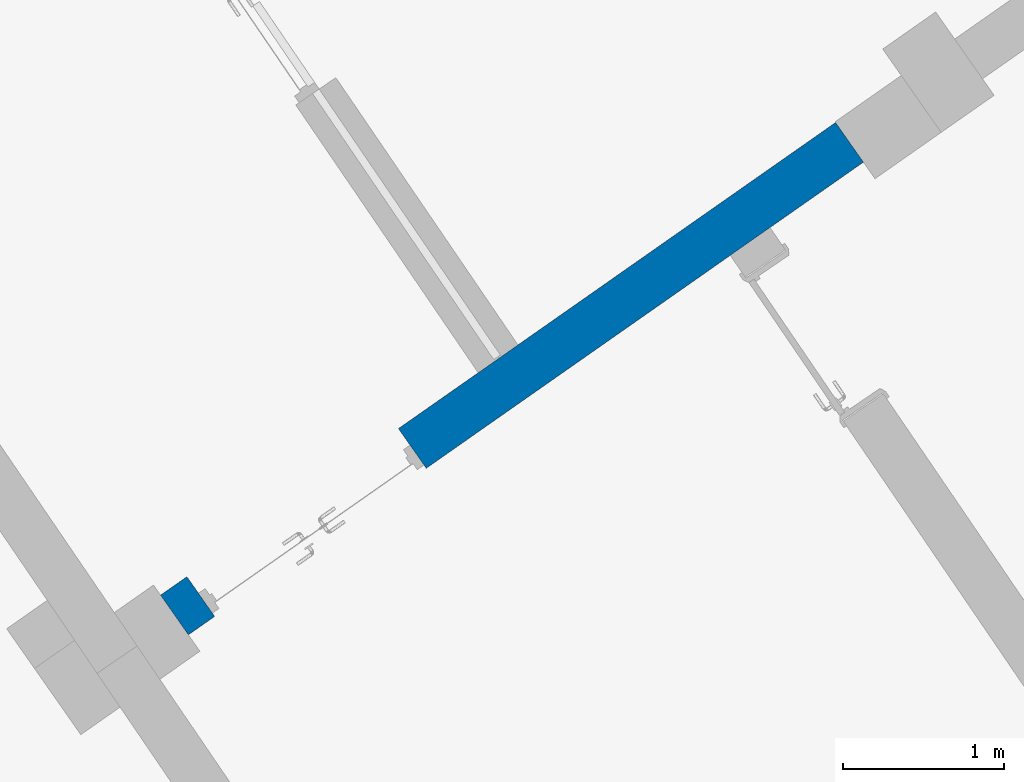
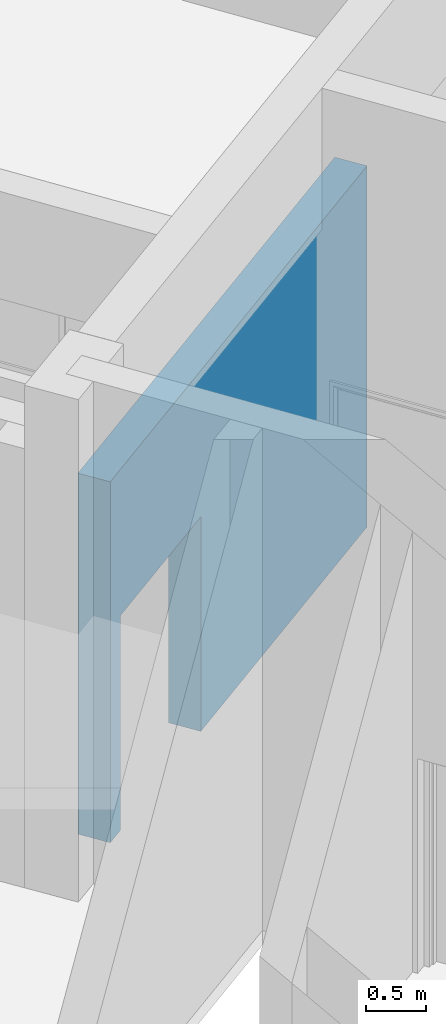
# One storey, part 65 of 157: 1 wall, 1 opening.
"""IFC2X3 building model written with IfcOpenShell, lengths in millimetres."""

from ifc_helpers import new_model, entity, si_unit, converted_unit, derived_unit, direction, frame, frame_2d, origin, place, context, subcontext, project, spatial, rectangle, extrude, material, layer, layer_set, layer_usage, type_object, element, save


model = new_model("IFC2X3")

# Units and contexts
model_context = context("Model", 3, precision=0.01, world=origin(), true_north=direction((6.123031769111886e-17, 1.0)))
body_context = subcontext(model_context, "Body", "Model", "MODEL_VIEW")
ifc_project = project(units=[si_unit("LENGTHUNIT", "METRE", prefix="MILLI"), si_unit("AREAUNIT", "SQUARE_METRE"), si_unit("VOLUMEUNIT", "CUBIC_METRE"), converted_unit("PLANEANGLEUNIT", "DEGREE", entity("IfcRatioMeasure", 0.017453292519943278), si_unit("PLANEANGLEUNIT", "RADIAN"), dimensions=[0, 0, 0, 0, 0, 0, 0]), si_unit("MASSUNIT", "GRAM", prefix="KILO"), derived_unit("MASSDENSITYUNIT", [(si_unit("MASSUNIT", "GRAM", prefix="KILO"), 1), (si_unit("LENGTHUNIT", "METRE"), -3)]), derived_unit("MOMENTOFINERTIAUNIT", [(si_unit("LENGTHUNIT", "METRE"), 4)]), si_unit("TIMEUNIT", "SECOND"), si_unit("FREQUENCYUNIT", "HERTZ"), si_unit("THERMODYNAMICTEMPERATUREUNIT", "DEGREE_CELSIUS"), derived_unit("THERMALTRANSMITTANCEUNIT", [(si_unit("MASSUNIT", "GRAM", prefix="KILO"), 1), (si_unit("THERMODYNAMICTEMPERATUREUNIT", "KELVIN"), -1), (si_unit("TIMEUNIT", "SECOND"), -3)]), derived_unit("THERMALCONDUCTANCEUNIT", [(si_unit("MASSUNIT", "GRAM", prefix="KILO"), 1), (si_unit("LENGTHUNIT", "METRE"), 1), (si_unit("THERMODYNAMICTEMPERATUREUNIT", "KELVIN"), -1), (si_unit("TIMEUNIT", "SECOND"), -3)]), derived_unit("VOLUMETRICFLOWRATEUNIT", [(si_unit("LENGTHUNIT", "METRE"), 3), (si_unit("TIMEUNIT", "SECOND"), -1)]), derived_unit("MASSFLOWRATEUNIT", [(si_unit("MASSUNIT", "GRAM", prefix="KILO"), 1), (si_unit("TIMEUNIT", "SECOND"), -1)]), derived_unit("ROTATIONALFREQUENCYUNIT", [(si_unit("TIMEUNIT", "SECOND"), -1)]), si_unit("ELECTRICCURRENTUNIT", "AMPERE"), si_unit("ELECTRICVOLTAGEUNIT", "VOLT"), si_unit("POWERUNIT", "WATT"), converted_unit("FORCEUNIT", "KIP", entity("IfcRatioMeasure", 2.088543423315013e-05), si_unit("FORCEUNIT", "NEWTON"), dimensions=[1, 1, -2, 0, 0, 0, 0]), si_unit("ILLUMINANCEUNIT", "LUX"), si_unit("LUMINOUSFLUXUNIT", "LUMEN"), si_unit("LUMINOUSINTENSITYUNIT", "CANDELA"), derived_unit("USERDEFINED", [(si_unit("MASSUNIT", "GRAM", prefix="KILO"), -1), (si_unit("LENGTHUNIT", "METRE"), -2), (si_unit("TIMEUNIT", "SECOND"), 3), (si_unit("LUMINOUSFLUXUNIT", "LUMEN"), 1)]), derived_unit("USERDEFINED", [(si_unit("MASSUNIT", "GRAM", prefix="KILO"), 1), (si_unit("LENGTHUNIT", "METRE"), 3), (si_unit("TIMEUNIT", "SECOND"), -3), (si_unit("ELECTRICCURRENTUNIT", "AMPERE"), -2)]), derived_unit("USERDEFINED", [(si_unit("LENGTHUNIT", "METRE"), 2), (si_unit("TIMEUNIT", "SECOND"), -2)]), derived_unit("SOUNDPOWERUNIT", [(si_unit("MASSUNIT", "GRAM", prefix="KILO"), 1), (si_unit("LENGTHUNIT", "METRE"), 2), (si_unit("TIMEUNIT", "SECOND"), -3)]), derived_unit("SOUNDPRESSUREUNIT", [(si_unit("MASSUNIT", "GRAM", prefix="KILO"), 1), (si_unit("LENGTHUNIT", "METRE"), -1), (si_unit("TIMEUNIT", "SECOND"), -2)]), derived_unit("LINEARVELOCITYUNIT", [(si_unit("LENGTHUNIT", "METRE"), 1), (si_unit("TIMEUNIT", "SECOND"), -1)]), si_unit("PRESSUREUNIT", "PASCAL"), derived_unit("USERDEFINED", [(si_unit("LENGTHUNIT", "METRE"), -2), (si_unit("MASSUNIT", "GRAM", prefix="KILO"), 1), (si_unit("TIMEUNIT", "SECOND"), -2)]), derived_unit("LINEARFORCEUNIT", [(si_unit("MASSUNIT", "GRAM", prefix="KILO"), 1), (si_unit("LENGTHUNIT", "METRE"), 1), (si_unit("TIMEUNIT", "SECOND"), -2), (si_unit("LENGTHUNIT", "METRE"), -1)]), derived_unit("PLANARFORCEUNIT", [(si_unit("MASSUNIT", "GRAM", prefix="KILO"), 1), (si_unit("LENGTHUNIT", "METRE"), 1), (si_unit("TIMEUNIT", "SECOND"), -2), (si_unit("LENGTHUNIT", "METRE"), -2)]), derived_unit("SPECIFICHEATCAPACITYUNIT", [(si_unit("LENGTHUNIT", "METRE"), 2), (si_unit("TIMEUNIT", "SECOND"), -2), (si_unit("THERMODYNAMICTEMPERATUREUNIT", "KELVIN"), -1)]), derived_unit("VAPORPERMEABILITYUNIT", [(si_unit("TIMEUNIT", "SECOND"), 1), (si_unit("LENGTHUNIT", "METRE"), -1)]), derived_unit("DYNAMICVISCOSITYUNIT", [(si_unit("MASSUNIT", "GRAM", prefix="KILO"), 1), (si_unit("LENGTHUNIT", "METRE"), -1), (si_unit("TIMEUNIT", "SECOND"), -1)]), derived_unit("THERMALEXPANSIONCOEFFICIENTUNIT", [(si_unit("THERMODYNAMICTEMPERATUREUNIT", "KELVIN"), -1)])], contexts=[model_context])

# Site, building, storey
site_placement = place(None, frame((0.0, 0.0, 0.0), z_axis=(0.0, 0.0, 1.0), x_axis=(0.8191520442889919, 0.5735764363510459, 0.0)))
site = spatial("IfcSite", under=ifc_project, at=site_placement, Name="Default", CompositionType="ELEMENT")
building_placement = place(site_placement, origin())
building = spatial("IfcBuilding", under=site, at=building_placement, CompositionType="ELEMENT")
storey_placement = place(building_placement, origin())
storey = spatial("IfcBuildingStorey", under=building, at=storey_placement, Name="1.EG +0.00", CompositionType="ELEMENT", Elevation=-4.331468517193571e-12)

# Wall, opening
ifc_material = material(Name="Analytical Wall Surface_CJC")
ifc_layer = layer(ifc_material, 300.0)
ifc_layer_set = layer_set([ifc_layer], Name="Basic Wall:Wand_Innen_30")
ifc_layer_usage = layer_usage(ifc_layer_set, "AXIS2", "NEGATIVE", 150.0)
wall_type = type_object("IfcWallType", Name="Basic Wall:Wand_Innen_30", PredefinedType="STANDARD", material=ifc_layer_set)
wall_placement = place(storey_placement, frame((-212058.79620629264, 61421.35891435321, 0.0), z_axis=(0.0, 0.0, 1.0), x_axis=(-1.0, 0.0, 0.0)))
wall = element("IfcWallStandardCase", 1, at=wall_placement, inside=storey, type_object=wall_type, material=ifc_layer_usage, Name="Basic Wall:Wand_Innen_30", ObjectType="Basic Wall:Wand_Innen_30", context=body_context, shape_type="SweptSolid", body=[
    extrude(rectangle(XDim=5105.251770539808, YDim=300.00000000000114, at=frame_2d((2552.625885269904, -1.6768808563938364e-12), x_axis=(-1.0, 0.0))), origin(), (0.0, 0.0, 1.0), 3700.0000000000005),
])
opening_placement = place(wall_placement, frame((3306.2017705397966, -150.0, 0.0)))
element("IfcOpeningElement", 2, at=opening_placement, cuts=wall, Name="M_Door-Passage-Double-Flush:150x210:1", ObjectType="Opening", context=body_context, shape_type="SweptSolid", body=[
    extrude(rectangle(XDim=2200.0, YDim=1599.999999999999, at=frame_2d((1100.0, 799.9999999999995), x_axis=(1.0, 0.0))), frame((0.0, 0.0, 0.0), z_axis=(0.0, 1.0, 0.0), x_axis=(0.0, 0.0, 1.0)), (0.0, 0.0, 1.0), 300.0),
])

save(model, "model.ifc")
